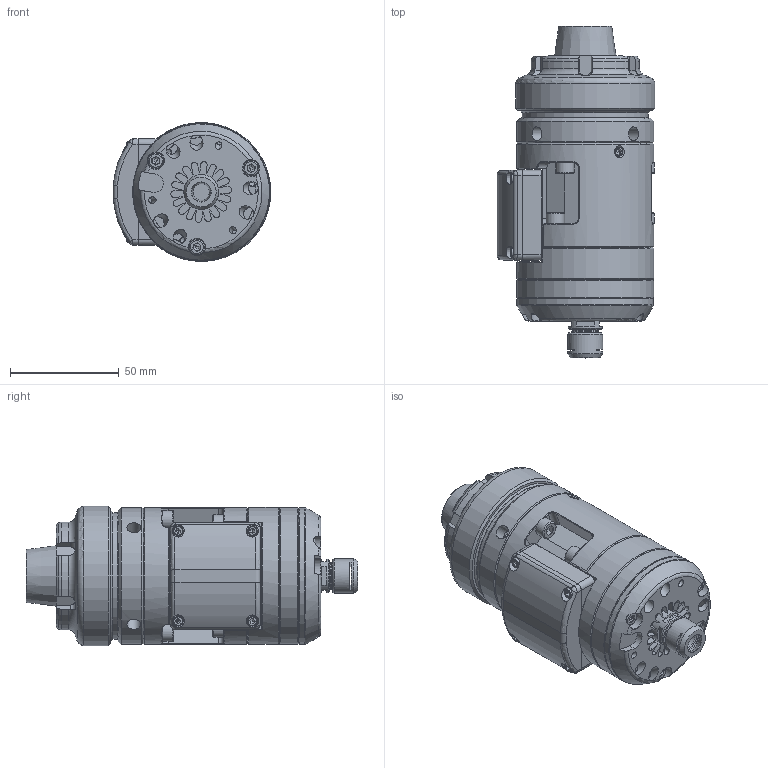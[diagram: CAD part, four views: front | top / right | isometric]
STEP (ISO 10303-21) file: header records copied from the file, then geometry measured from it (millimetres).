
FILE_DESCRIPTION (( 'STEP AP214' ), '1' );
FILE_NAME ('TJS GJET V4 ER32.STEP', '2025-06-19T12:39:33', ( 'pc' ), ( '' ), 'SwSTEP 2.0', 'SolidWorks 2024', '' );
FILE_SCHEMA (( 'AUTOMOTIVE_DESIGN' ));
Length unit declared in the file: millimetre
Products named in the file (1): TJS GJET V4 ER32
Bounding box: 72.5 x 152.6 x 64 mm (x, y, z)
Volume: 234317.2 mm3; surface area: 103678.5 mm2
Topology: 29 solids, 29 shells, 1475 faces, 3622 edges, 2240 vertices
Faces by surface type: plane 689, cylinder 371, cone 247, torus 118, bspline 50
Full cylindrical faces by diameter (mm): 2.5 x6, 3 x3, 3.3 x6, 4.2 x11, 4.3 x2, 4.5 x5, 5 x13, 5.5 x3, 5.8 x3, 6 x11, 6.2 x3, 6.4 x4, 6.5 x1, 7 x3, 7.5 x1, 7.65 x1, 7.8 x3, 8.5 x6, 10 x1, 11.21 x1, 11.3 x1, 11.8 x1, 12 x1, 12.2 x1, 12.3 x1, 13 x1, 13.2 x1, 15.5 x1, 16 x1, 16.2 x1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
Entity records: 47146 total; most frequent: CARTESIAN_POINT 14239, DIRECTION 6704, ORIENTED_EDGE 6446, EDGE_CURVE 3223, AXIS2_PLACEMENT_3D 2550, VERTEX_POINT 2143, EDGE_LOOP 1902, FACE_OUTER_BOUND 1648
